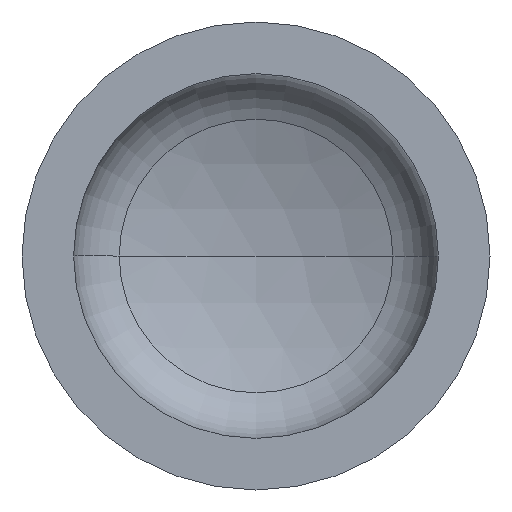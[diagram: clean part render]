
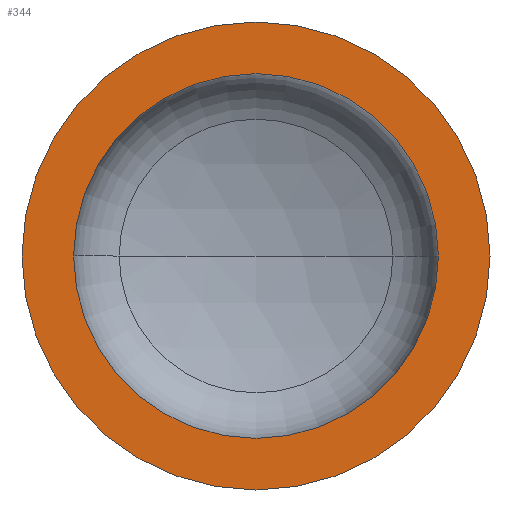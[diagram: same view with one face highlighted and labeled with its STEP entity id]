
A CAD part, front view. The second image highlights one B-rep face of the part: STEP entity #344.
In plain terms, the highlighted planar face has unit normal (0, -1, 0).
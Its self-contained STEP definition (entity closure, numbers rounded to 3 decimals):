
#2 = AXIS2_PLACEMENT_3D ( 'NONE', #80, #125, #127 ) ;
#8 = EDGE_LOOP ( 'NONE', ( #119, #36 ) ) ;
#13 = AXIS2_PLACEMENT_3D ( 'NONE', #84, #269, #391 ) ;
#20 = ORIENTED_EDGE ( 'NONE', *, *, #363, .F. ) ;
#32 = DIRECTION ( 'NONE',  ( 1., 0., 0. ) ) ;
#34 = VERTEX_POINT ( 'NONE', #262 ) ;
#36 = ORIENTED_EDGE ( 'NONE', *, *, #117, .T. ) ;
#50 = VERTEX_POINT ( 'NONE', #249 ) ;
#61 = CIRCLE ( 'NONE', #73, 198. ) ;
#69 = EDGE_LOOP ( 'NONE', ( #217, #20 ) ) ;
#70 = VERTEX_POINT ( 'NONE', #242 ) ;
#73 = AXIS2_PLACEMENT_3D ( 'NONE', #302, #306, #305 ) ;
#80 = CARTESIAN_POINT ( 'NONE',  ( 0., 0., 0. ) ) ;
#83 = AXIS2_PLACEMENT_3D ( 'NONE', #283, #371, #32 ) ;
#84 = CARTESIAN_POINT ( 'NONE',  ( -254., 0., 0. ) ) ;
#117 = EDGE_CURVE ( 'NONE', #238, #34, #394, .T. ) ;
#119 = ORIENTED_EDGE ( 'NONE', *, *, #399, .T. ) ;
#120 = EDGE_CURVE ( 'NONE', #70, #50, #61, .T. ) ;
#125 = DIRECTION ( 'NONE',  ( 0., -1., 0. ) ) ;
#127 = DIRECTION ( 'NONE',  ( 1., 0., 0. ) ) ;
#130 = DIRECTION ( 'NONE',  ( 0., -1., 0. ) ) ;
#132 = DIRECTION ( 'NONE',  ( 1., 0., 0. ) ) ;
#136 = PLANE ( 'NONE',  #13 ) ;
#166 = AXIS2_PLACEMENT_3D ( 'NONE', #289, #130, #132 ) ;
#175 = CIRCLE ( 'NONE', #166, 254. ) ;
#210 = FACE_OUTER_BOUND ( 'NONE', #8, .T. ) ;
#217 = ORIENTED_EDGE ( 'NONE', *, *, #120, .F. ) ;
#238 = VERTEX_POINT ( 'NONE', #360 ) ;
#242 = CARTESIAN_POINT ( 'NONE',  ( 198., 0., 0. ) ) ;
#249 = CARTESIAN_POINT ( 'NONE',  ( -198., 0., 0. ) ) ;
#262 = CARTESIAN_POINT ( 'NONE',  ( 254., 0., 0. ) ) ;
#269 = DIRECTION ( 'NONE',  ( 0., 1., 0. ) ) ;
#283 = CARTESIAN_POINT ( 'NONE',  ( 0., 0., 0. ) ) ;
#289 = CARTESIAN_POINT ( 'NONE',  ( 0., 0., 0. ) ) ;
#302 = CARTESIAN_POINT ( 'NONE',  ( 0., 0., 0. ) ) ;
#305 = DIRECTION ( 'NONE',  ( 1., 0., 0. ) ) ;
#306 = DIRECTION ( 'NONE',  ( 0., -1., 0. ) ) ;
#332 = CIRCLE ( 'NONE', #2, 198. ) ;
#342 = FACE_BOUND ( 'NONE', #69, .T. ) ;
#344 = ADVANCED_FACE ( 'NONE', ( #342, #210 ), #136, .F. ) ;
#360 = CARTESIAN_POINT ( 'NONE',  ( -254., 0., 0. ) ) ;
#363 = EDGE_CURVE ( 'NONE', #50, #70, #332, .T. ) ;
#371 = DIRECTION ( 'NONE',  ( 0., -1., 0. ) ) ;
#391 = DIRECTION ( 'NONE',  ( -1., 0., 0. ) ) ;
#394 = CIRCLE ( 'NONE', #83, 254. ) ;
#399 = EDGE_CURVE ( 'NONE', #34, #238, #175, .T. ) ;
